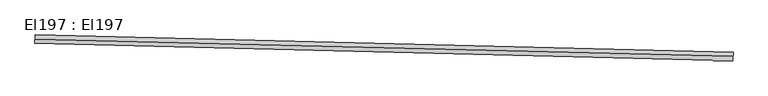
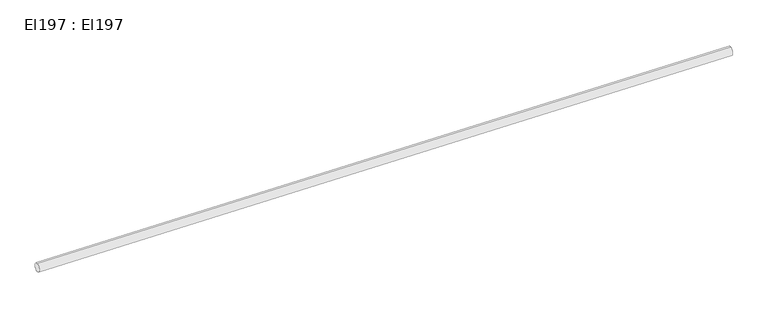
"""IFC4 building model written with IfcOpenShell, lengths in millimetres: cable carrier segment geometry, El197 : El197."""

from ifc_helpers import new_model, si_unit, point, frame, frame_2d, origin, place, context, project, spatial, circle_curve, trimmed, segment, composite_curve, outline, extrude, source, transform, mapped, element, save


def el197_el197_3738e7fa(model_context):
    return source(origin(), model_context, "Body", "SweptSolid", [
        extrude(outline(composite_curve([segment(trimmed(circle_curve(frame_2d((0.0, -12.0)), 12.0), [point((0.0, -24.0))], [point((0.0, 0.0))], False, "CARTESIAN"), True, "CONTINUOUS"), segment(trimmed(circle_curve(frame_2d((0.0, -12.0)), 12.0), [point((0.0, 0.0))], [point((0.0, -24.0))], False, "CARTESIAN"), True, "CONTINUOUS")], self_intersect=False)), frame((9596.0926018, 30522.7189574, 2962.0), z_axis=(-0.999693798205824, 0.024744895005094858, 0.0), x_axis=(-0.024744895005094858, -0.999693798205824, 0.0)), (0.0, 0.0, 1.0), 1970.59),
    ])


if __name__ == "__main__":
    model = new_model("IFC4")
    model_context = context("Model", 3, world=origin())
    ifc_project = project(units=[si_unit("LENGTHUNIT", "METRE", prefix="MILLI")], contexts=[model_context])
    site = spatial("IfcSite", under=ifc_project)
    building = spatial("IfcBuilding", under=site)
    placement = place(None, origin())
    el197_el197_shape = el197_el197_3738e7fa(model_context)
    element("IfcCableCarrierSegment", 1, ObjectType="El197 : El197", at=placement, inside=building, context=model_context, shape_type="MappedRepresentation", body=[
        mapped(el197_el197_shape, transform((0.0, 0.0, 0.0), x_axis=(1.0, 0.0, 0.0), y_axis=(0.0, 1.0, 0.0), z_axis=(0.0, 0.0, 1.0))),
    ])
    save(model, "model.ifc")
